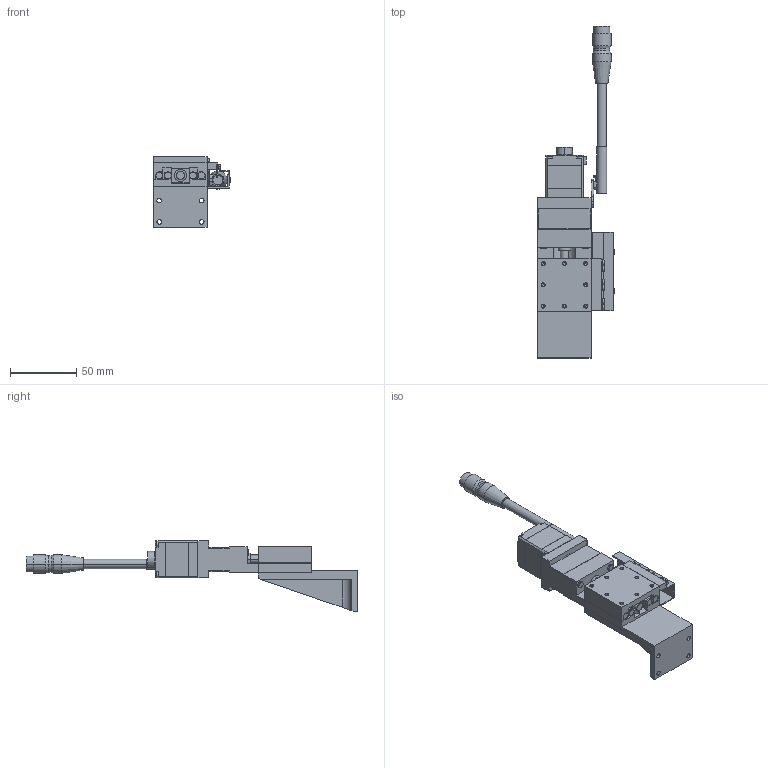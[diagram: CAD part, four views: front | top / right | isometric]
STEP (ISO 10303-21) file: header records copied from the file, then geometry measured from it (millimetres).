
FILE_DESCRIPTION(('STEP AP203'),'1');
FILE_NAME('C:/3D-Trans/3D_PZG413T-R□-T+240125.step','2024-03-14T07:47:17',(' '),(' '),'Spatial InterOp 3D',' ',' ');
FILE_SCHEMA(('CONFIG_CONTROL_DESIGN'));
Length unit declared in the file: millimetre
Products named in the file (7): 1; 2; 3; 4; 5; 6; 7
Bounding box: 57.4 x 250 x 53 mm (x, y, z)
Volume: 119823.5 mm3; surface area: 52428.4 mm2
Topology: 7 solids, 7 shells, 601 faces, 1520 edges, 961 vertices
Faces by surface type: plane 352, cylinder 195, cone 54
Entity records: 18236 total; most frequent: DIRECTION 3190, CARTESIAN_POINT 3075, ORIENTED_EDGE 3000, EDGE_CURVE 1500, AXIS2_PLACEMENT_3D 1084, LINE 1022, VECTOR 1022, VERTEX_POINT 961
